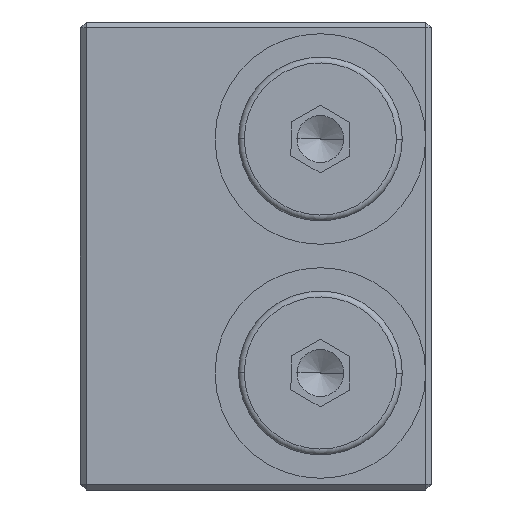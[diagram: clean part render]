
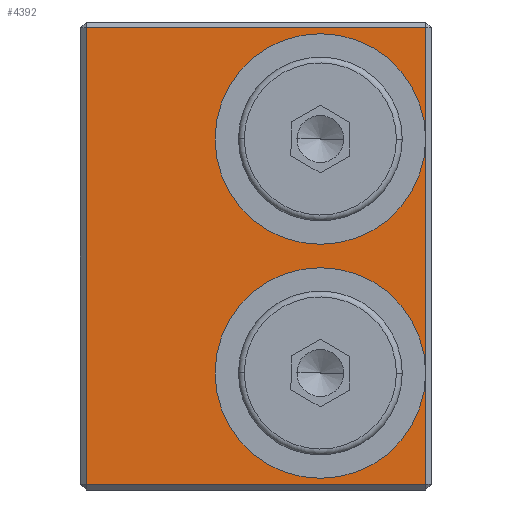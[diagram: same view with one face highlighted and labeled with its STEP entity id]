
A CAD part, left-side view. The second image highlights one B-rep face of the part: STEP entity #4392.
In plain terms, the highlighted planar face has unit normal (-1, 0, 0).
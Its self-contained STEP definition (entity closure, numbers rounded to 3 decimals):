
#163 = EDGE_CURVE ( 'NONE', #10968, #6916, #2675, .T. ) ;
#463 = DIRECTION ( 'NONE',  ( 0., 0., 1. ) ) ;
#489 = DIRECTION ( 'NONE',  ( -1., 0., 0. ) ) ;
#493 = CARTESIAN_POINT ( 'NONE',  ( 0., -5.5, -10. ) ) ;
#729 = EDGE_CURVE ( 'NONE', #5958, #10968, #12343, .T. ) ;
#913 = CARTESIAN_POINT ( 'NONE',  ( 0., 14.5, 19.5 ) ) ;
#961 = VERTEX_POINT ( 'NONE', #11778 ) ;
#1065 = EDGE_CURVE ( 'NONE', #6916, #5958, #9013, .T. ) ;
#1174 = VERTEX_POINT ( 'NONE', #7789 ) ;
#1220 = LINE ( 'NONE', #2341, #6234 ) ;
#1635 = LINE ( 'NONE', #4873, #4544 ) ;
#1911 = DIRECTION ( 'NONE',  ( 0., 0., 1. ) ) ;
#1919 = DIRECTION ( 'NONE',  ( 0., 0., 1. ) ) ;
#2027 = VERTEX_POINT ( 'NONE', #2602 ) ;
#2084 = AXIS2_PLACEMENT_3D ( 'NONE', #8475, #2905, #4434 ) ;
#2341 = CARTESIAN_POINT ( 'NONE',  ( 0., 15., 19.5 ) ) ;
#2344 = DIRECTION ( 'NONE',  ( 0., 0., 1. ) ) ;
#2369 = CARTESIAN_POINT ( 'NONE',  ( 0., -14.5, 20. ) ) ;
#2583 = ORIENTED_EDGE ( 'NONE', *, *, #10374, .T. ) ;
#2593 = VECTOR ( 'NONE', #7810, 1000. ) ;
#2602 = CARTESIAN_POINT ( 'NONE',  ( 0., -14.5, 19.5 ) ) ;
#2675 = CIRCLE ( 'NONE', #3387, 9. ) ;
#2735 = LINE ( 'NONE', #7809, #2593 ) ;
#2755 = CARTESIAN_POINT ( 'NONE',  ( 0., -14.5, 20. ) ) ;
#2844 = ORIENTED_EDGE ( 'NONE', *, *, #729, .F. ) ;
#2905 = DIRECTION ( 'NONE',  ( -1., 0., 0. ) ) ;
#2955 = ORIENTED_EDGE ( 'NONE', *, *, #7370, .T. ) ;
#3084 = EDGE_CURVE ( 'NONE', #4689, #9352, #4520, .T. ) ;
#3238 = CARTESIAN_POINT ( 'NONE',  ( 0., -14.5, 10. ) ) ;
#3278 = DIRECTION ( 'NONE',  ( 0., 0., 1. ) ) ;
#3387 = AXIS2_PLACEMENT_3D ( 'NONE', #12367, #6690, #1911 ) ;
#3638 = ORIENTED_EDGE ( 'NONE', *, *, #3084, .T. ) ;
#3697 = DIRECTION ( 'NONE',  ( 0., 0., -1. ) ) ;
#3744 = CARTESIAN_POINT ( 'NONE',  ( 0., 14.5, -20. ) ) ;
#3875 = ORIENTED_EDGE ( 'NONE', *, *, #1065, .F. ) ;
#3922 = LINE ( 'NONE', #2369, #7794 ) ;
#3958 = VERTEX_POINT ( 'NONE', #8196 ) ;
#4009 = ORIENTED_EDGE ( 'NONE', *, *, #5189, .F. ) ;
#4114 = ORIENTED_EDGE ( 'NONE', *, *, #5713, .T. ) ;
#4126 = ORIENTED_EDGE ( 'NONE', *, *, #163, .F. ) ;
#4195 = CIRCLE ( 'NONE', #8876, 9. ) ;
#4330 = EDGE_LOOP ( 'NONE', ( #4009, #2583, #3875, #4126, #2844, #2955, #4114, #3638, #4773, #4478, #4621, #4632 ) ) ;
#4392 = ADVANCED_FACE ( 'NONE', ( #11275 ), #8789, .T. ) ;
#4434 = DIRECTION ( 'NONE',  ( 0., 0., 1. ) ) ;
#4478 = ORIENTED_EDGE ( 'NONE', *, *, #6081, .T. ) ;
#4520 = LINE ( 'NONE', #3744, #10905 ) ;
#4544 = VECTOR ( 'NONE', #9816, 1000. ) ;
#4621 = ORIENTED_EDGE ( 'NONE', *, *, #5414, .F. ) ;
#4632 = ORIENTED_EDGE ( 'NONE', *, *, #8871, .F. ) ;
#4689 = VERTEX_POINT ( 'NONE', #913 ) ;
#4773 = ORIENTED_EDGE ( 'NONE', *, *, #8220, .T. ) ;
#4873 = CARTESIAN_POINT ( 'NONE',  ( 0., -14.5, 20. ) ) ;
#4992 = CIRCLE ( 'NONE', #8618, 9. ) ;
#5000 = CARTESIAN_POINT ( 'NONE',  ( 0., 14.5, -19.5 ) ) ;
#5189 = EDGE_CURVE ( 'NONE', #1174, #3958, #4195, .T. ) ;
#5252 = LINE ( 'NONE', #2755, #9087 ) ;
#5414 = EDGE_CURVE ( 'NONE', #961, #1174, #11757, .T. ) ;
#5565 = CARTESIAN_POINT ( 'NONE',  ( 0., -14.5, -19.5 ) ) ;
#5713 = EDGE_CURVE ( 'NONE', #2027, #4689, #1220, .T. ) ;
#5815 = CARTESIAN_POINT ( 'NONE',  ( 0., -5.5, -10. ) ) ;
#5958 = VERTEX_POINT ( 'NONE', #3238 ) ;
#6081 = EDGE_CURVE ( 'NONE', #11290, #1174, #1635, .T. ) ;
#6086 = AXIS2_PLACEMENT_3D ( 'NONE', #8269, #8337, #7312 ) ;
#6234 = VECTOR ( 'NONE', #9470, 1000. ) ;
#6690 = DIRECTION ( 'NONE',  ( -1., 0., 0. ) ) ;
#6916 = VERTEX_POINT ( 'NONE', #8198 ) ;
#6982 = DIRECTION ( 'NONE',  ( 0., 0., 1. ) ) ;
#7008 = DIRECTION ( 'NONE',  ( -1., 0., 0. ) ) ;
#7019 = DIRECTION ( 'NONE',  ( -1., 0., 0. ) ) ;
#7035 = AXIS2_PLACEMENT_3D ( 'NONE', #7065, #7019, #6982 ) ;
#7065 = CARTESIAN_POINT ( 'NONE',  ( 0., 15., -20. ) ) ;
#7312 = DIRECTION ( 'NONE',  ( 0., 0., 1. ) ) ;
#7370 = EDGE_CURVE ( 'NONE', #5958, #2027, #3922, .T. ) ;
#7789 = CARTESIAN_POINT ( 'NONE',  ( 0., -14.5, -10. ) ) ;
#7794 = VECTOR ( 'NONE', #2344, 1000. ) ;
#7809 = CARTESIAN_POINT ( 'NONE',  ( 0., -15., -19.5 ) ) ;
#7810 = DIRECTION ( 'NONE',  ( 0., -1., 0. ) ) ;
#8196 = CARTESIAN_POINT ( 'NONE',  ( 0., -5.5, -1. ) ) ;
#8198 = CARTESIAN_POINT ( 'NONE',  ( 0., -5.5, 1. ) ) ;
#8220 = EDGE_CURVE ( 'NONE', #9352, #11290, #2735, .T. ) ;
#8269 = CARTESIAN_POINT ( 'NONE',  ( 0., -5.5, -10. ) ) ;
#8337 = DIRECTION ( 'NONE',  ( -1., 0., 0. ) ) ;
#8475 = CARTESIAN_POINT ( 'NONE',  ( 0., -5.5, 10. ) ) ;
#8618 = AXIS2_PLACEMENT_3D ( 'NONE', #493, #489, #463 ) ;
#8789 = PLANE ( 'NONE',  #7035 ) ;
#8871 = EDGE_CURVE ( 'NONE', #3958, #961, #4992, .T. ) ;
#8876 = AXIS2_PLACEMENT_3D ( 'NONE', #5815, #7008, #1919 ) ;
#9013 = CIRCLE ( 'NONE', #10806, 9. ) ;
#9087 = VECTOR ( 'NONE', #3278, 1000. ) ;
#9137 = CARTESIAN_POINT ( 'NONE',  ( 0., -5.5, 10. ) ) ;
#9230 = DIRECTION ( 'NONE',  ( 0., 0., 1. ) ) ;
#9255 = DIRECTION ( 'NONE',  ( -1., 0., 0. ) ) ;
#9352 = VERTEX_POINT ( 'NONE', #5000 ) ;
#9470 = DIRECTION ( 'NONE',  ( 0., 1., 0. ) ) ;
#9816 = DIRECTION ( 'NONE',  ( 0., 0., 1. ) ) ;
#9947 = CARTESIAN_POINT ( 'NONE',  ( 0., -5.5, 19. ) ) ;
#10374 = EDGE_CURVE ( 'NONE', #1174, #5958, #5252, .T. ) ;
#10806 = AXIS2_PLACEMENT_3D ( 'NONE', #9137, #9255, #9230 ) ;
#10905 = VECTOR ( 'NONE', #3697, 1000. ) ;
#10968 = VERTEX_POINT ( 'NONE', #9947 ) ;
#11275 = FACE_OUTER_BOUND ( 'NONE', #4330, .T. ) ;
#11290 = VERTEX_POINT ( 'NONE', #5565 ) ;
#11757 = CIRCLE ( 'NONE', #6086, 9. ) ;
#11778 = CARTESIAN_POINT ( 'NONE',  ( 0., -5.5, -19. ) ) ;
#12343 = CIRCLE ( 'NONE', #2084, 9. ) ;
#12367 = CARTESIAN_POINT ( 'NONE',  ( 0., -5.5, 10. ) ) ;
